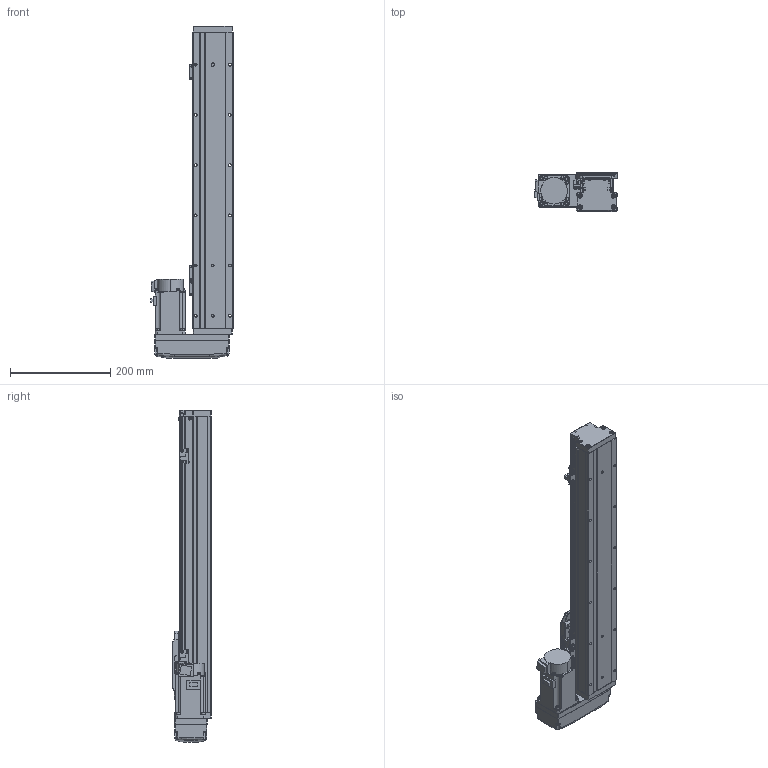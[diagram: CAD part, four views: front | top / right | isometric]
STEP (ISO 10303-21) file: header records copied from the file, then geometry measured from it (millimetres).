
FILE_DESCRIPTION (( 'STEP AP203' ), '1' );
FILE_NAME ('GTH8-400-BL-M20-C4.step', '2022-09-23T01:00:05', ( '微软用户' ), ( '微软中国' ), 'SwSTEP 2.0', 'SolidWorks 2020', '' );
FILE_SCHEMA (( 'CONFIG_CONTROL_DESIGN' ));
Length unit declared in the file: millimetre
Products named in the file (18): GBT 70.1-M3℅6; hg-kn43j_-s100_; GTH80-003; GBT 70.1-M4×16; CTHA86-015-1_CTHA86-015-2; GTH80-004; GTH80-028; CTHA86-033_M40B; GTH80-006; GTH50-024; GTH8-400-BL-M20-C4; GTH80-013; GTH50-023; GBT 70.3-M3℅6; GBT96.1-2002 3×0.8; GTH80-022; BTH-M3X5X6; GTH80-001_400
Assembly tree (57 placements, depth 2):
  GTH8-400-BL-M20-C4
    GTH80-001_400
    GTH80-003
    GTH80-004
    GTH80-006
    GTH80-013
    GBT 70.3-M3℅6  x4
    GTH80-022
    GBT 70.1-M3℅6  x14
    GBT 70.1-M4×16  x8
    GTH80-028  x2
    GTH50-024  x3
    GTH50-023  x3
    GBT96.1-2002 3×0.8  x6
    BTH-M3X5X6  x8
    hg-kn43j_-s100_
    CTHA86-015-1_CTHA86-015-2
    CTHA86-033_M40B
Bounding box: 164.8 x 78 x 661 mm (x, y, z)
Volume: 3545844.4 mm3; surface area: 396059.8 mm2
Topology: 59 solids, 59 shells, 2232 faces, 5151 edges, 3155 vertices
Faces by surface type: plane 1187, cylinder 603, cone 260, torus 166, bspline 8, sphere 8
Entity records: 40626 total; most frequent: CARTESIAN_POINT 7145, DIRECTION 6593, ORIENTED_EDGE 6120, EDGE_CURVE 3060, AXIS2_PLACEMENT_3D 2301, LINE 1991, VECTOR 1991, VERTEX_POINT 1930
